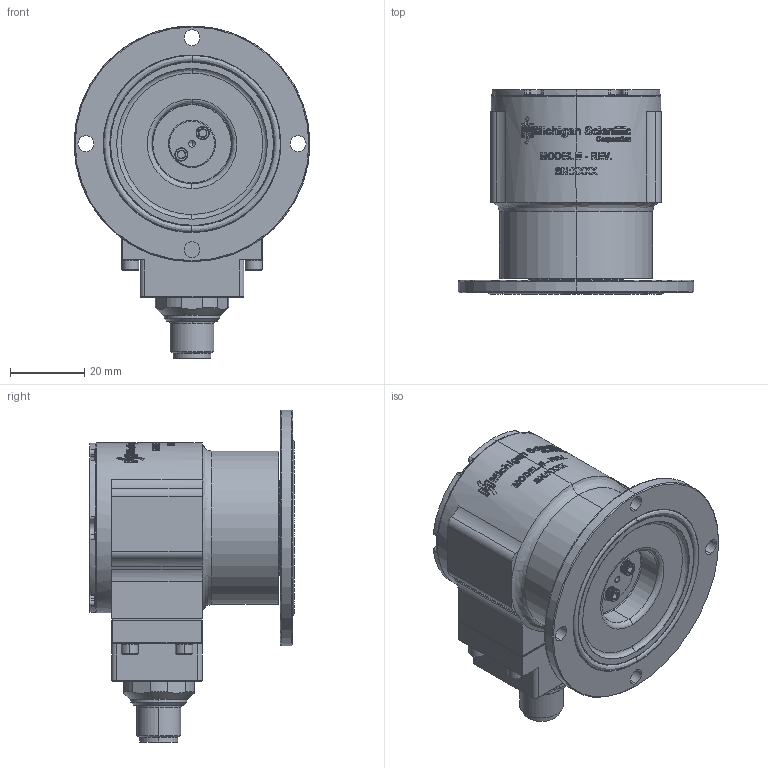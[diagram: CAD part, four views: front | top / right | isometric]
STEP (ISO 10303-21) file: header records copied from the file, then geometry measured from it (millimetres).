
FILE_DESCRIPTION (( 'STEP AP203' ), '1' );
FILE_NAME ('1018013.STEP', '2021-08-02T14:59:02', ( '' ), ( '' ), 'SwSTEP 2.0', 'SolidWorks 2020', '' );
FILE_SCHEMA (( 'CONFIG_CONTROL_DESIGN' ));
Length unit declared in the file: inch
Products named in the file (1): 1018013
Bounding box: 63.49 x 55.04 x 89.47 mm (x, y, z)
Volume: 103613.1 mm3; surface area: 21281 mm2
Topology: 1 solids, 5 shells, 1627 faces, 4181 edges, 2654 vertices
Faces by surface type: plane 691, bspline 491, cylinder 229, cone 216
Entity records: 65225 total; most frequent: CARTESIAN_POINT 29730, ORIENTED_EDGE 8346, DIRECTION 5699, EDGE_CURVE 4173, VERTEX_POINT 2654, AXIS2_PLACEMENT_3D 1966, LINE 1767, VECTOR 1767
